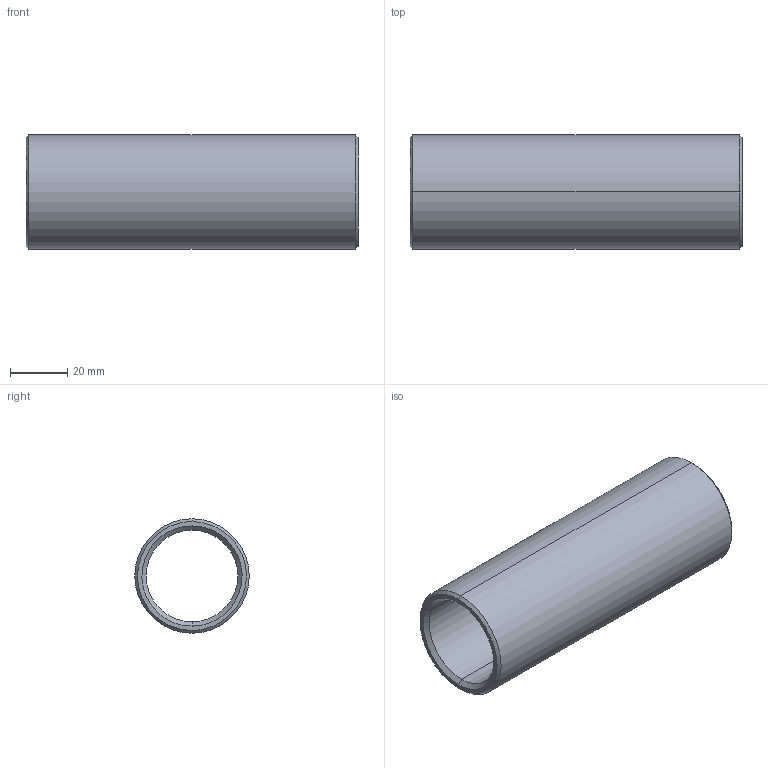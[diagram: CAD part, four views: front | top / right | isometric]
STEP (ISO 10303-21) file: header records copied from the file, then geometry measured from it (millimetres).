
FILE_DESCRIPTION(('CATIA V5 STEP Exchange'),'2;1');
FILE_NAME('C:\Users\Utente\Desktop\IO LAVORO\3D X SITO CF\X SITO\PLASTICA\352\352-32X116.stp','2021-04-14T14:56:45+00:00',('none'),('none'),'CATIA Version 5 Release 20 GA (IN-10)','CATIA V5 STEP AP203','none');
FILE_SCHEMA(('CONFIG_CONTROL_DESIGN'));
Length unit declared in the file: millimetre
Products named in the file (1): 352-32X116
Bounding box: 116 x 40 x 40 mm (x, y, z)
Volume: 52215.1 mm3; surface area: 26865.4 mm2
Topology: 1 solids, 1 shells, 14 faces, 44 edges, 32 vertices
Faces by surface type: cone 6, cylinder 4, plane 2, torus 2
Entity records: 634 total; most frequent: CARTESIAN_POINT 203, ORIENTED_EDGE 88, DIRECTION 64, EDGE_CURVE 44, AXIS2_PLACEMENT_3D 41, VERTEX_POINT 32, CIRCLE 26, EDGE_LOOP 16
